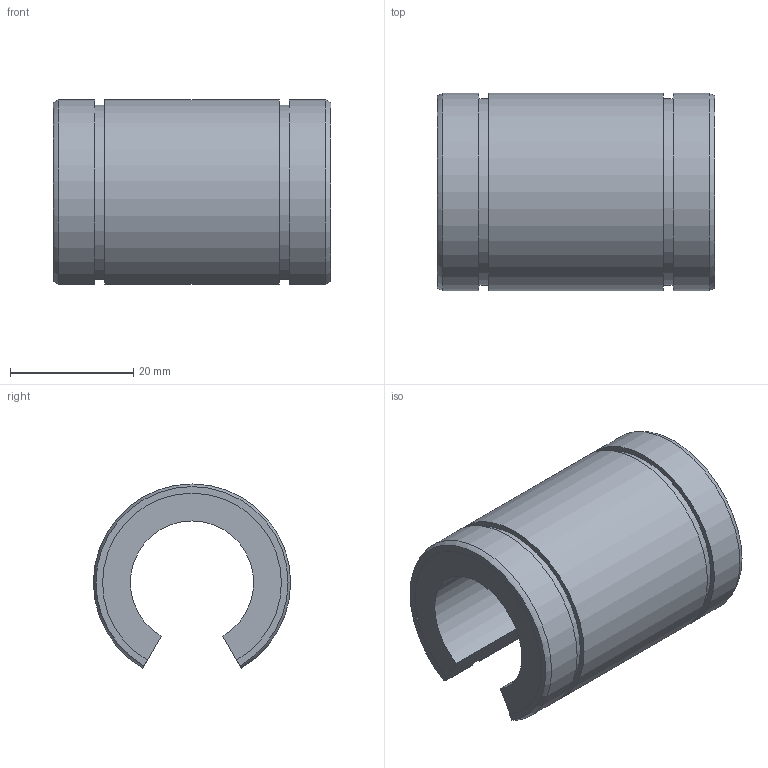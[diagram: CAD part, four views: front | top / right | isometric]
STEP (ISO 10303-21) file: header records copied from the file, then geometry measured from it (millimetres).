
FILE_DESCRIPTION((''),'2;1');
FILE_NAME('D:\製品 (図面)\カタログ用3D\リニアベアリング関連\STEP形式\LE-OP\LE20-OP.stp','2010-06-03T09:09:32',('Tsuchiya'),(''),'Autodesk Inventor 10','Autodesk Inventor 10','');
FILE_SCHEMA(('AUTOMOTIVE_DESIGN { 1 0 10303 214 1 1 1 1 }'));
Length unit declared in the file: millimetre
Products named in the file (1): LE20-OP
Bounding box: 45 x 32 x 29.86 mm (x, y, z)
Volume: 18070.6 mm3; surface area: 7686.5 mm2
Topology: 1 solids, 1 shells, 20 faces, 54 edges, 36 vertices
Faces by surface type: plane 10, cylinder 8, torus 2
Entity records: 663 total; most frequent: DIRECTION 118, CARTESIAN_POINT 111, ORIENTED_EDGE 108, EDGE_CURVE 54, AXIS2_PLACEMENT_3D 43, VERTEX_POINT 36, VECTOR 32, LINE 32
